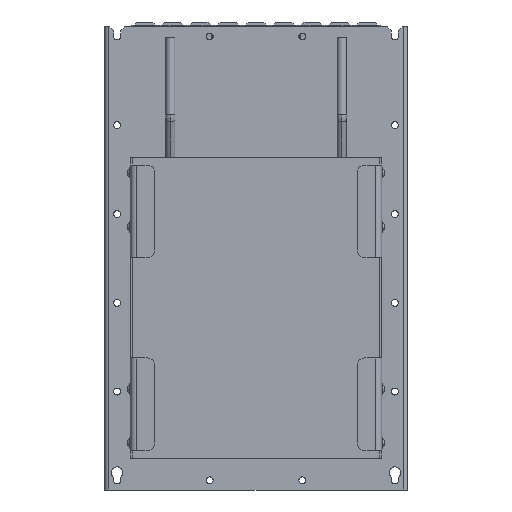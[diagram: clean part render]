
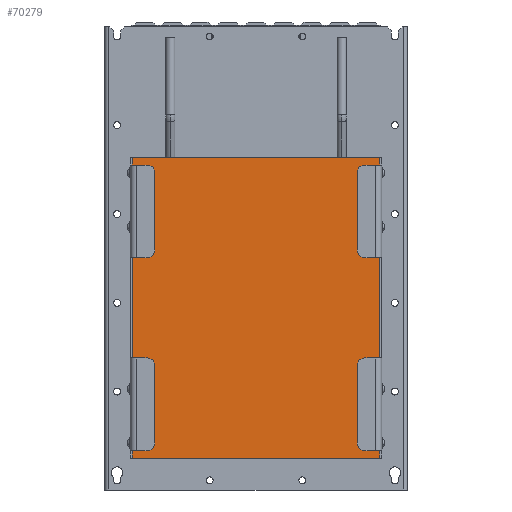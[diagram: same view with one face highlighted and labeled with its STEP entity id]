
A CAD part, front view. The second image highlights one B-rep face of the part: STEP entity #70279.
In plain terms, the highlighted planar face has unit normal (0, -1, 0).
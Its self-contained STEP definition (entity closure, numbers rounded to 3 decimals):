
#1209 = ORIENTED_EDGE ( 'NONE', *, *, #31522, .T. ) ;
#1509 = CARTESIAN_POINT ( 'NONE',  ( 160., -25., 41. ) ) ;
#1533 = EDGE_CURVE ( 'NONE', #83962, #49532, #51138, .T. ) ;
#1716 = DIRECTION ( 'NONE',  ( 1., 0., 0. ) ) ;
#1980 = CARTESIAN_POINT ( 'NONE',  ( 160., -25., 421. ) ) ;
#3768 = DIRECTION ( 'NONE',  ( 0., 0., -1. ) ) ;
#5996 = VECTOR ( 'NONE', #3768, 1000. ) ;
#6199 = VECTOR ( 'NONE', #37588, 1000. ) ;
#8173 = VERTEX_POINT ( 'NONE', #55511 ) ;
#8639 = DIRECTION ( 'NONE',  ( -1., 0., 0. ) ) ;
#10230 = DIRECTION ( 'NONE',  ( 0., 0., 1. ) ) ;
#10776 = ORIENTED_EDGE ( 'NONE', *, *, #38682, .T. ) ;
#10922 = CARTESIAN_POINT ( 'NONE',  ( 160., -25., 41. ) ) ;
#12724 = EDGE_CURVE ( 'NONE', #52951, #23642, #103174, .T. ) ;
#13230 = VECTOR ( 'NONE', #102149, 1000. ) ;
#13440 = CARTESIAN_POINT ( 'NONE',  ( -160., -25., 51. ) ) ;
#16727 = ORIENTED_EDGE ( 'NONE', *, *, #75741, .T. ) ;
#17049 = CARTESIAN_POINT ( 'NONE',  ( -160., -25., 431. ) ) ;
#23473 = FACE_OUTER_BOUND ( 'NONE', #44873, .T. ) ;
#23642 = VERTEX_POINT ( 'NONE', #44031 ) ;
#24723 = CARTESIAN_POINT ( 'NONE',  ( -160., -25., 41. ) ) ;
#25013 = DIRECTION ( 'NONE',  ( 0., 0., -1. ) ) ;
#25442 = ORIENTED_EDGE ( 'NONE', *, *, #59336, .T. ) ;
#26231 = VERTEX_POINT ( 'NONE', #1980 ) ;
#27676 = CARTESIAN_POINT ( 'NONE',  ( -160., -25., 171. ) ) ;
#28657 = CARTESIAN_POINT ( 'NONE',  ( -160., -25., 41. ) ) ;
#28965 = CARTESIAN_POINT ( 'NONE',  ( -160., -25., 421. ) ) ;
#29621 = VECTOR ( 'NONE', #1716, 1000. ) ;
#31118 = VECTOR ( 'NONE', #100340, 1000. ) ;
#31518 = EDGE_CURVE ( 'NONE', #32328, #80254, #100291, .T. ) ;
#31522 = EDGE_CURVE ( 'NONE', #86305, #52951, #91653, .T. ) ;
#32328 = VERTEX_POINT ( 'NONE', #17049 ) ;
#33231 = DIRECTION ( 'NONE',  ( 0., 0., 1. ) ) ;
#33975 = EDGE_CURVE ( 'NONE', #23642, #83962, #86211, .T. ) ;
#37393 = DIRECTION ( 'NONE',  ( 0., 0., 1. ) ) ;
#37588 = DIRECTION ( 'NONE',  ( 0., 0., 1. ) ) ;
#38682 = EDGE_CURVE ( 'NONE', #75804, #32328, #96951, .T. ) ;
#42339 = CARTESIAN_POINT ( 'NONE',  ( -160., -25., 41. ) ) ;
#42670 = LINE ( 'NONE', #1509, #88188 ) ;
#44031 = CARTESIAN_POINT ( 'NONE',  ( 160., -25., 51. ) ) ;
#44731 = CARTESIAN_POINT ( 'NONE',  ( -160., -25., 41. ) ) ;
#44873 = EDGE_LOOP ( 'NONE', ( #1209, #74172, #55821, #66886, #85405, #95425, #10776, #49372, #25442, #16727, #50264, #55879 ) ) ;
#45975 = DIRECTION ( 'NONE',  ( 0., -1., 0. ) ) ;
#49372 = ORIENTED_EDGE ( 'NONE', *, *, #31518, .T. ) ;
#49532 = VERTEX_POINT ( 'NONE', #92268 ) ;
#50264 = ORIENTED_EDGE ( 'NONE', *, *, #102448, .T. ) ;
#51138 = LINE ( 'NONE', #84191, #51268 ) ;
#51268 = VECTOR ( 'NONE', #33231, 1000. ) ;
#51347 = DIRECTION ( 'NONE',  ( 0., 0., 1. ) ) ;
#52951 = VERTEX_POINT ( 'NONE', #101815 ) ;
#55511 = CARTESIAN_POINT ( 'NONE',  ( -160., -25., 301. ) ) ;
#55821 = ORIENTED_EDGE ( 'NONE', *, *, #33975, .T. ) ;
#55879 = ORIENTED_EDGE ( 'NONE', *, *, #93648, .T. ) ;
#56171 = LINE ( 'NONE', #24723, #89299 ) ;
#56525 = PLANE ( 'NONE',  #56960 ) ;
#56960 = AXIS2_PLACEMENT_3D ( 'NONE', #89560, #45975, #84648 ) ;
#59336 = EDGE_CURVE ( 'NONE', #80254, #8173, #56171, .T. ) ;
#61828 = VECTOR ( 'NONE', #10230, 1000. ) ;
#62026 = CARTESIAN_POINT ( 'NONE',  ( 160., -25., 41. ) ) ;
#66886 = ORIENTED_EDGE ( 'NONE', *, *, #1533, .T. ) ;
#70279 = ADVANCED_FACE ( 'NONE', ( #23473 ), #56525, .T. ) ;
#70529 = EDGE_CURVE ( 'NONE', #49532, #26231, #42670, .T. ) ;
#73855 = CARTESIAN_POINT ( 'NONE',  ( -160., -25., 41. ) ) ;
#74172 = ORIENTED_EDGE ( 'NONE', *, *, #12724, .T. ) ;
#74336 = CARTESIAN_POINT ( 'NONE',  ( -160., -25., 41. ) ) ;
#74740 = CARTESIAN_POINT ( 'NONE',  ( 160., -25., 171. ) ) ;
#75741 = EDGE_CURVE ( 'NONE', #8173, #106284, #97270, .T. ) ;
#75804 = VERTEX_POINT ( 'NONE', #91310 ) ;
#78825 = VERTEX_POINT ( 'NONE', #13440 ) ;
#80254 = VERTEX_POINT ( 'NONE', #28965 ) ;
#81626 = DIRECTION ( 'NONE',  ( 0., 0., -1. ) ) ;
#81761 = CARTESIAN_POINT ( 'NONE',  ( -160., -25., 41. ) ) ;
#83752 = VECTOR ( 'NONE', #8639, 1000. ) ;
#83962 = VERTEX_POINT ( 'NONE', #74740 ) ;
#84191 = CARTESIAN_POINT ( 'NONE',  ( 160., -25., 41. ) ) ;
#84648 = DIRECTION ( 'NONE',  ( 1., 0., 0. ) ) ;
#85405 = ORIENTED_EDGE ( 'NONE', *, *, #70529, .T. ) ;
#86211 = LINE ( 'NONE', #10922, #95526 ) ;
#86305 = VERTEX_POINT ( 'NONE', #81761 ) ;
#88188 = VECTOR ( 'NONE', #51347, 1000. ) ;
#88835 = CARTESIAN_POINT ( 'NONE',  ( -160., -25., 431. ) ) ;
#89299 = VECTOR ( 'NONE', #81626, 1000. ) ;
#89560 = CARTESIAN_POINT ( 'NONE',  ( 0., -25., 41. ) ) ;
#90095 = LINE ( 'NONE', #73855, #31118 ) ;
#91310 = CARTESIAN_POINT ( 'NONE',  ( 160., -25., 431. ) ) ;
#91653 = LINE ( 'NONE', #42339, #29621 ) ;
#92268 = CARTESIAN_POINT ( 'NONE',  ( 160., -25., 301. ) ) ;
#92571 = LINE ( 'NONE', #99061, #61828 ) ;
#93648 = EDGE_CURVE ( 'NONE', #78825, #86305, #90095, .T. ) ;
#95425 = ORIENTED_EDGE ( 'NONE', *, *, #101939, .T. ) ;
#95526 = VECTOR ( 'NONE', #37393, 1000. ) ;
#96951 = LINE ( 'NONE', #88835, #83752 ) ;
#97156 = VECTOR ( 'NONE', #25013, 1000. ) ;
#97270 = LINE ( 'NONE', #28657, #5996 ) ;
#99061 = CARTESIAN_POINT ( 'NONE',  ( 160., -25., 41. ) ) ;
#100291 = LINE ( 'NONE', #74336, #97156 ) ;
#100340 = DIRECTION ( 'NONE',  ( 0., 0., -1. ) ) ;
#101619 = LINE ( 'NONE', #44731, #13230 ) ;
#101815 = CARTESIAN_POINT ( 'NONE',  ( 160., -25., 41. ) ) ;
#101939 = EDGE_CURVE ( 'NONE', #26231, #75804, #92571, .T. ) ;
#102149 = DIRECTION ( 'NONE',  ( 0., 0., -1. ) ) ;
#102448 = EDGE_CURVE ( 'NONE', #106284, #78825, #101619, .T. ) ;
#103174 = LINE ( 'NONE', #62026, #6199 ) ;
#106284 = VERTEX_POINT ( 'NONE', #27676 ) ;
